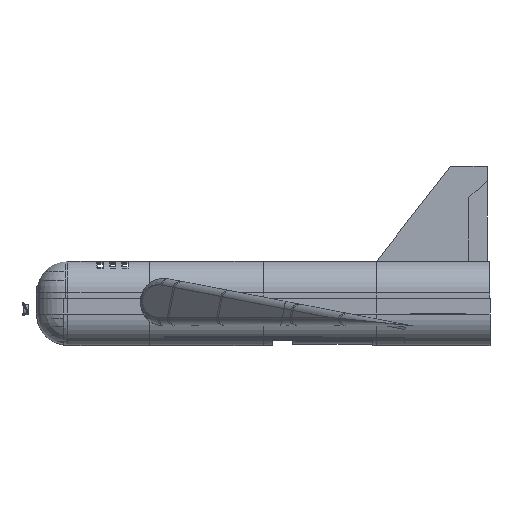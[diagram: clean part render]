
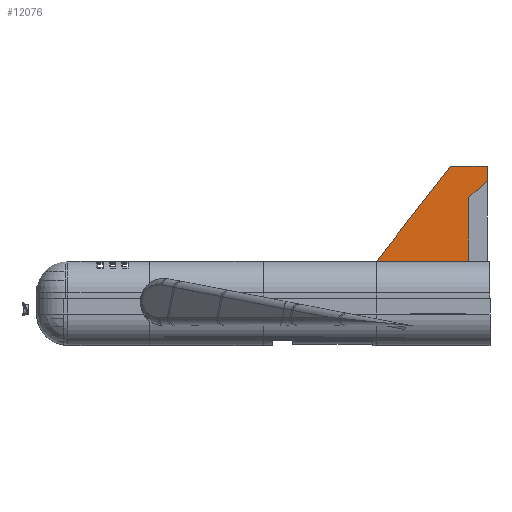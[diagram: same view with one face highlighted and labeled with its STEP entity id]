
A CAD part, left-side view. The second image highlights one B-rep face of the part: STEP entity #12076.
In plain terms, the highlighted planar face has unit normal (-1, 0, 0) as drawn and (1, 0, 0) by its records, which use the part's own axes.
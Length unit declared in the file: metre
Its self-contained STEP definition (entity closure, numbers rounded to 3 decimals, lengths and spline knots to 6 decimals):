
#700=ORIENTED_EDGE('',*,*,#4184,.F.);
#701=ORIENTED_EDGE('',*,*,#4188,.T.);
#702=ORIENTED_EDGE('',*,*,#4191,.T.);
#703=ORIENTED_EDGE('',*,*,#4194,.T.);
#704=ORIENTED_EDGE('',*,*,#4197,.F.);
#705=ORIENTED_EDGE('',*,*,#4199,.F.);
#4184=EDGE_CURVE('',#5939,#5940,#7112,.T.);
#4188=EDGE_CURVE('',#5939,#5942,#7116,.T.);
#4191=EDGE_CURVE('',#5942,#5944,#7119,.T.);
#4194=EDGE_CURVE('',#5944,#5946,#7122,.T.);
#4197=EDGE_CURVE('',#5948,#5946,#7125,.T.);
#4199=EDGE_CURVE('',#5940,#5948,#7127,.T.);
#5939=VERTEX_POINT('',#17604);
#5940=VERTEX_POINT('',#17606);
#5942=VERTEX_POINT('',#17612);
#5944=VERTEX_POINT('',#17618);
#5946=VERTEX_POINT('',#17624);
#5948=VERTEX_POINT('',#17630);
#7112=LINE('',#17605,#8600);
#7116=LINE('',#17613,#8604);
#7119=LINE('',#17619,#8607);
#7122=LINE('',#17625,#8610);
#7125=LINE('',#17631,#8613);
#7127=LINE('',#17634,#8615);
#8600=VECTOR('',#14205,1.);
#8604=VECTOR('',#14211,1.);
#8607=VECTOR('',#14216,1.);
#8610=VECTOR('',#14221,1.);
#8613=VECTOR('',#14226,1.);
#8615=VECTOR('',#14230,1.);
#10086=EDGE_LOOP('',(#700,#701,#702,#703,#704,#705));
#10800=FACE_BOUND('',#10086,.T.);
#11514=PLANE('',#13232);
#12076=ADVANCED_FACE('',(#10800),#11514,.T.);
#13232=AXIS2_PLACEMENT_3D('',#17635,#14231,#14232);
#14205=DIRECTION('',(0.,0.,1.));
#14211=DIRECTION('',(0.,1.,0.));
#14216=DIRECTION('',(0.,0.671,-0.742));
#14221=DIRECTION('',(0.,1.,0.));
#14226=DIRECTION('',(0.,0.,-1.));
#14230=DIRECTION('',(0.,0.789,-0.614));
#14231=DIRECTION('',(1.,0.,0.));
#14232=DIRECTION('',(0.,1.,0.));
#17604=CARTESIAN_POINT('',(0.0008,0.204388,-0.056277));
#17605=CARTESIAN_POINT('',(0.0008,0.204388,0.048723));
#17606=CARTESIAN_POINT('',(0.0008,0.204388,0.118723));
#17612=CARTESIAN_POINT('',(0.0008,0.325307,-0.056277));
#17613=CARTESIAN_POINT('',(0.0008,0.264847,-0.056277));
#17618=CARTESIAN_POINT('',(0.0008,0.356948,-0.091277));
#17619=CARTESIAN_POINT('',(0.0008,0.341128,-0.073777));
#17624=CARTESIAN_POINT('',(0.0008,0.384388,-0.091277));
#17625=CARTESIAN_POINT('',(0.0008,0.370668,-0.091277));
#17630=CARTESIAN_POINT('',(0.0008,0.384388,-0.021277));
#17631=CARTESIAN_POINT('',(0.0008,0.384388,-0.056277));
#17634=CARTESIAN_POINT('',(0.0008,0.294388,0.048723));
#17635=CARTESIAN_POINT('',(0.0008,0.294388,-0.054216));
